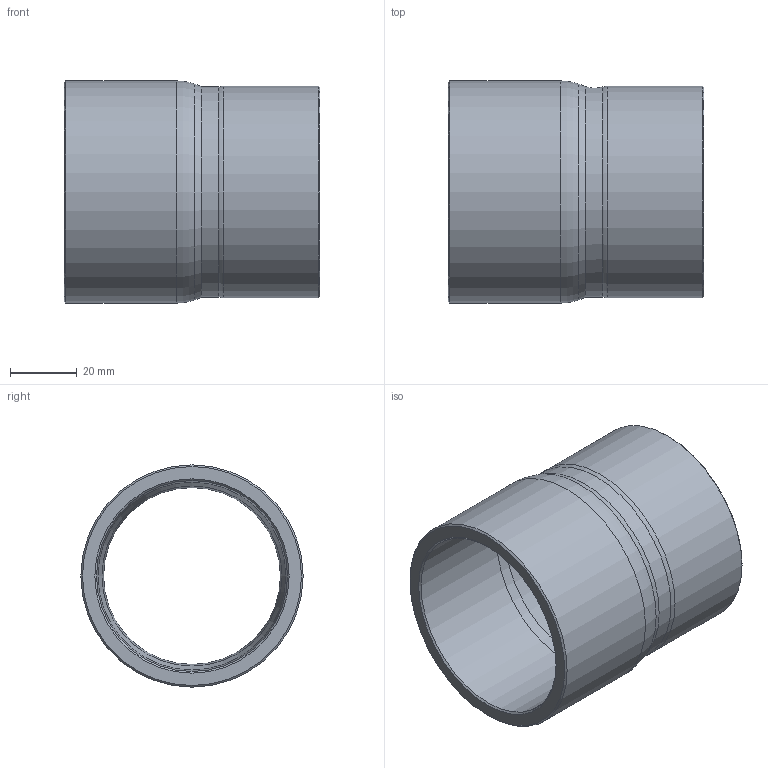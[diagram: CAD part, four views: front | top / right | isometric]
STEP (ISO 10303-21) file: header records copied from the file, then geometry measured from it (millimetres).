
FILE_DESCRIPTION((''),'2;1');
FILE_NAME('Z:\Technik\Management\Bouwmaten + markeringen\z-maattekeningen 3D\29000s\29000s_gem\29243258218_3d.stp','2020-05-26T11:49:55',('vdvijverd'),(''),'Autodesk Inventor 2009','Autodesk Inventor 2009','');
FILE_SCHEMA(('AUTOMOTIVE_DESIGN { 1 0 10303 214 1 1 1 1 }'));
Length unit declared in the file: millimetre
Products named in the file (1): 29243258218_3d
Bounding box: 76.78 x 66.67 x 66.67 mm (x, y, z)
Volume: 68569.9 mm3; surface area: 30773.7 mm2
Topology: 1 solids, 1 shells, 18 faces, 34 edges, 18 vertices
Faces by surface type: cone 6, cylinder 4, torus 3, bspline 3, plane 2
Full cylindrical faces by diameter (mm): 54.155 x1, 57.315 x1, 63.515 x1, 66.675 x1
Entity records: 532 total; most frequent: CARTESIAN_POINT 205, DIRECTION 68, ORIENTED_EDGE 36, EDGE_LOOP 36, AXIS2_PLACEMENT_3D 34, VERTEX_POINT 18, CIRCLE 18, EDGE_CURVE 18
